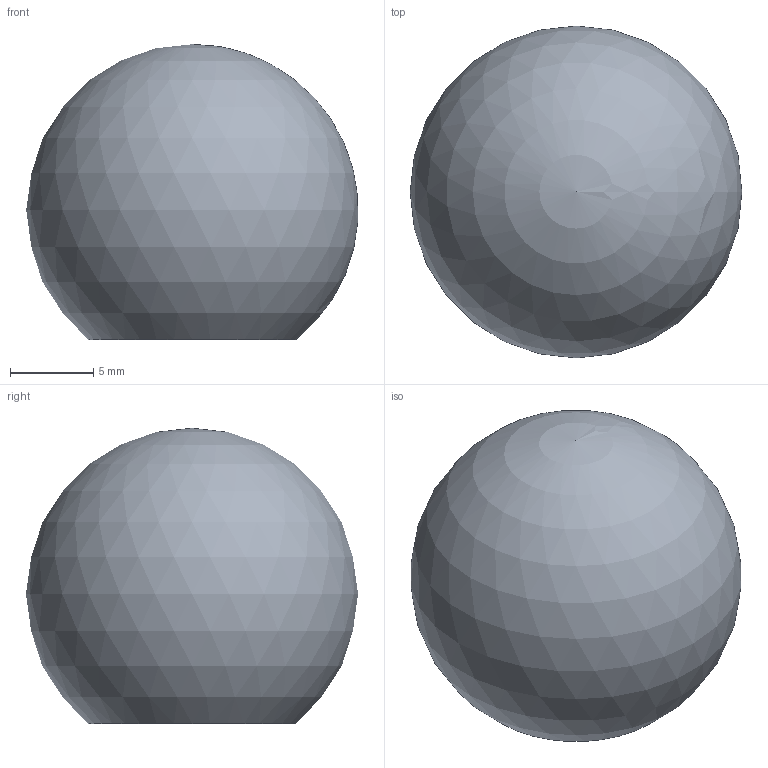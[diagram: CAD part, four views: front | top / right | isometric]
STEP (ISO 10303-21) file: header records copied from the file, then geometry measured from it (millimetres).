
FILE_DESCRIPTION( ('This file contains a STEP AP42 implementation' ,'as created by ZW3D STEP Interface translator.') ,'2;1' );
FILE_NAME( 'Galka kulista DK20 typA.stp' ,'26 331. 84821', (''), ('ZWCAD Software Co.'), 'Version 1.0', 'ZW3D to STEP translator', '' );
FILE_SCHEMA(('AP242_MANAGED_MODEL_BASED_3D_ENGINEERING_MIM_LF { 1 0 10303 442 1 1 4 }'));
Length unit declared in the file: millimetre
Products named in the file (1): 0
Bounding box: 19.97 x 20 x 17.8 mm (x, y, z)
Volume: 3902.4 mm3; surface area: 2350.8 mm2
Topology: 2 solids, 2 shells, 17 faces, 30 edges, 17 vertices
Faces by surface type: cylinder 6, cone 6, plane 4, sphere 1
Full cylindrical faces by diameter (mm): 4.2 x2, 9.8 x2, 11 x2
Entity records: 433 total; most frequent: DIRECTION 80, CARTESIAN_POINT 63, ORIENTED_EDGE 56, AXIS2_PLACEMENT_3D 34, EDGE_CURVE 28, EDGE_LOOP 19, VERTEX_POINT 17, FACE_OUTER_BOUND 17
